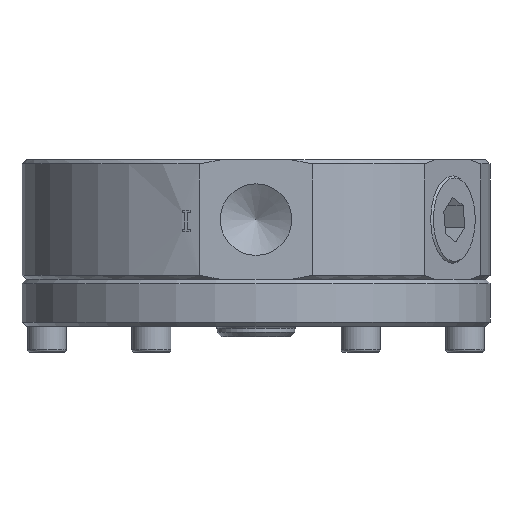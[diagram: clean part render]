
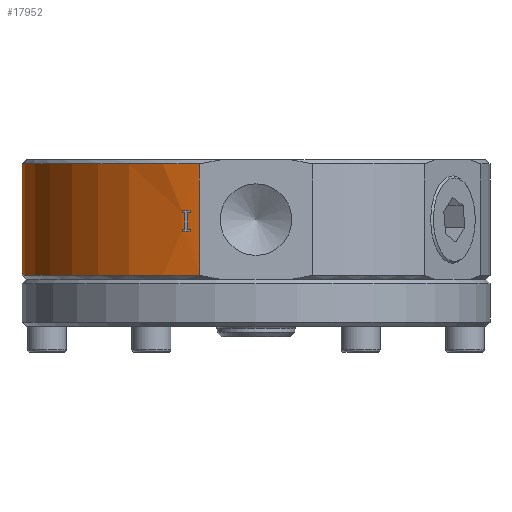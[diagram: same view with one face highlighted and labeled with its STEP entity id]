
A CAD part, left-side view. The second image highlights one B-rep face of the part: STEP entity #17952.
In plain terms, the highlighted cylindrical face has radius 57.15 mm (diameter 114.3 mm), a partial arc.
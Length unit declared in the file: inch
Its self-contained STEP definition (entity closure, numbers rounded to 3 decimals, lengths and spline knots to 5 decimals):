
#160=FACE_BOUND('',#2711,.T.);
#1201=CYLINDRICAL_SURFACE('',#18766,2.25);
#1844=FACE_OUTER_BOUND('',#2710,.T.);
#2710=EDGE_LOOP('',(#14889,#14890,#14891,#14892));
#2711=EDGE_LOOP('',(#14893,#14894,#14895,#14896,#14897,#14898,#14899,#14900,
#14901,#14902,#14903,#14904));
#2992=LINE('',#23027,#5003);
#2995=LINE('',#23035,#5006);
#2998=LINE('',#23043,#5009);
#3001=LINE('',#23051,#5012);
#3004=LINE('',#23059,#5015);
#3007=LINE('',#23067,#5018);
#4394=LINE('',#28120,#6405);
#4399=LINE('',#28194,#6410);
#5003=VECTOR('',#19186,0.3937);
#5006=VECTOR('',#19195,0.3937);
#5009=VECTOR('',#19204,0.3937);
#5012=VECTOR('',#19213,0.3937);
#5015=VECTOR('',#19222,0.3937);
#5018=VECTOR('',#19231,0.3937);
#6405=VECTOR('',#21650,0.3937);
#6410=VECTOR('',#21691,0.3937);
#7016=CIRCLE('',#18219,2.25);
#7017=CIRCLE('',#18222,2.25);
#7018=CIRCLE('',#18225,2.25);
#7019=CIRCLE('',#18228,2.25);
#7020=CIRCLE('',#18231,2.25);
#7021=CIRCLE('',#18234,2.25);
#7055=CIRCLE('',#18746,2.25);
#7060=CIRCLE('',#18765,2.25);
#7220=VERTEX_POINT('',#23024);
#7221=VERTEX_POINT('',#23026);
#7222=VERTEX_POINT('',#23030);
#7223=VERTEX_POINT('',#23034);
#7224=VERTEX_POINT('',#23038);
#7225=VERTEX_POINT('',#23042);
#7226=VERTEX_POINT('',#23046);
#7227=VERTEX_POINT('',#23050);
#7228=VERTEX_POINT('',#23054);
#7229=VERTEX_POINT('',#23058);
#7230=VERTEX_POINT('',#23062);
#7231=VERTEX_POINT('',#23066);
#8314=VERTEX_POINT('',#28108);
#8315=VERTEX_POINT('',#28112);
#8316=VERTEX_POINT('',#28119);
#8325=VERTEX_POINT('',#28188);
#9060=EDGE_CURVE('',#7221,#7220,#2992,.T.);
#9062=EDGE_CURVE('',#7222,#7221,#7016,.T.);
#9064=EDGE_CURVE('',#7223,#7222,#2995,.T.);
#9066=EDGE_CURVE('',#7224,#7223,#7017,.T.);
#9068=EDGE_CURVE('',#7225,#7224,#2998,.T.);
#9070=EDGE_CURVE('',#7226,#7225,#7018,.T.);
#9072=EDGE_CURVE('',#7227,#7226,#3001,.T.);
#9074=EDGE_CURVE('',#7228,#7227,#7019,.T.);
#9076=EDGE_CURVE('',#7229,#7228,#3004,.T.);
#9078=EDGE_CURVE('',#7230,#7229,#7020,.T.);
#9080=EDGE_CURVE('',#7231,#7230,#3007,.T.);
#9082=EDGE_CURVE('',#7220,#7231,#7021,.T.);
#10692=EDGE_CURVE('',#8314,#8315,#7055,.T.);
#10694=EDGE_CURVE('',#8316,#8315,#4394,.T.);
#10716=EDGE_CURVE('',#8316,#8325,#7060,.T.);
#10718=EDGE_CURVE('',#8314,#8325,#4399,.T.);
#14889=ORIENTED_EDGE('',*,*,#10692,.F.);
#14890=ORIENTED_EDGE('',*,*,#10718,.T.);
#14891=ORIENTED_EDGE('',*,*,#10716,.F.);
#14892=ORIENTED_EDGE('',*,*,#10694,.T.);
#14893=ORIENTED_EDGE('',*,*,#9060,.T.);
#14894=ORIENTED_EDGE('',*,*,#9082,.T.);
#14895=ORIENTED_EDGE('',*,*,#9080,.T.);
#14896=ORIENTED_EDGE('',*,*,#9078,.T.);
#14897=ORIENTED_EDGE('',*,*,#9076,.T.);
#14898=ORIENTED_EDGE('',*,*,#9074,.T.);
#14899=ORIENTED_EDGE('',*,*,#9072,.T.);
#14900=ORIENTED_EDGE('',*,*,#9070,.T.);
#14901=ORIENTED_EDGE('',*,*,#9068,.T.);
#14902=ORIENTED_EDGE('',*,*,#9066,.T.);
#14903=ORIENTED_EDGE('',*,*,#9064,.T.);
#14904=ORIENTED_EDGE('',*,*,#9062,.T.);
#17952=ADVANCED_FACE('',(#1844,#160),#1201,.T.);
#18219=AXIS2_PLACEMENT_3D('',#23031,#19190,#19191);
#18222=AXIS2_PLACEMENT_3D('',#23039,#19199,#19200);
#18225=AXIS2_PLACEMENT_3D('',#23047,#19208,#19209);
#18228=AXIS2_PLACEMENT_3D('',#23055,#19217,#19218);
#18231=AXIS2_PLACEMENT_3D('',#23063,#19226,#19227);
#18234=AXIS2_PLACEMENT_3D('',#23070,#19235,#19236);
#18746=AXIS2_PLACEMENT_3D('',#28113,#21644,#21645);
#18765=AXIS2_PLACEMENT_3D('',#28189,#21687,#21688);
#18766=AXIS2_PLACEMENT_3D('',#28193,#21689,#21690);
#19186=DIRECTION('',(0.,0.,1.));
#19190=DIRECTION('center_axis',(0.,0.,
-1.));
#19191=DIRECTION('ref_axis',(-1.,0.,0.));
#19195=DIRECTION('',(0.,0.,1.));
#19199=DIRECTION('center_axis',(0.,0.,
1.));
#19200=DIRECTION('ref_axis',(-1.,0.,0.));
#19204=DIRECTION('',(0.,0.,1.));
#19208=DIRECTION('center_axis',(0.,0.,
-1.));
#19209=DIRECTION('ref_axis',(-1.,0.,0.));
#19213=DIRECTION('',(0.,0.,-1.));
#19217=DIRECTION('center_axis',(0.,0.,
1.));
#19218=DIRECTION('ref_axis',(-1.,0.,0.));
#19222=DIRECTION('',(0.,0.,-1.));
#19226=DIRECTION('center_axis',(0.,0.,
-1.));
#19227=DIRECTION('ref_axis',(-1.,0.,0.));
#19231=DIRECTION('',(0.,0.,-1.));
#19235=DIRECTION('center_axis',(0.,0.,
1.));
#19236=DIRECTION('ref_axis',(-1.,0.,0.));
#21644=DIRECTION('center_axis',(0.,0.,
1.));
#21645=DIRECTION('ref_axis',(-1.,0.,0.));
#21650=DIRECTION('',(0.,0.,1.));
#21687=DIRECTION('center_axis',(0.,0.,
-1.));
#21688=DIRECTION('ref_axis',(-1.,0.,0.));
#21689=DIRECTION('center_axis',(0.,0.,
-1.));
#21690=DIRECTION('ref_axis',(-1.,0.,0.));
#21691=DIRECTION('',(0.,0.,-1.));
#23024=CARTESIAN_POINT('',(-2.13568,0.70806,1.13247));
#23026=CARTESIAN_POINT('',(-2.13568,0.70806,1.11204));
#23027=CARTESIAN_POINT('',(-2.13568,0.70806,1.04566));
#23030=CARTESIAN_POINT('',(-2.14355,0.68387,1.11204));
#23031=CARTESIAN_POINT('Origin',(0.,0.,
1.11204));
#23034=CARTESIAN_POINT('',(-2.14355,0.68387,0.95289));
#23035=CARTESIAN_POINT('',(-2.14355,0.68387,1.04566));
#23038=CARTESIAN_POINT('',(-2.13568,0.70806,0.95289));
#23039=CARTESIAN_POINT('Origin',(0.,0.,
0.95289));
#23042=CARTESIAN_POINT('',(-2.13568,0.70806,0.93247));
#23043=CARTESIAN_POINT('',(-2.13568,0.70806,1.04566));
#23046=CARTESIAN_POINT('',(-2.15879,0.63412,0.93247));
#23047=CARTESIAN_POINT('Origin',(0.,0.,
0.93247));
#23050=CARTESIAN_POINT('',(-2.15879,0.63412,0.95289));
#23051=CARTESIAN_POINT('',(-2.15879,0.63412,1.04566));
#23054=CARTESIAN_POINT('',(-2.15148,0.6585,0.95289));
#23055=CARTESIAN_POINT('Origin',(0.,0.,
0.95289));
#23058=CARTESIAN_POINT('',(-2.15148,0.6585,1.11204));
#23059=CARTESIAN_POINT('',(-2.15148,0.6585,1.04566));
#23062=CARTESIAN_POINT('',(-2.15879,0.63412,1.11204));
#23063=CARTESIAN_POINT('Origin',(0.,0.,
1.11204));
#23066=CARTESIAN_POINT('',(-2.15879,0.63412,1.13247));
#23067=CARTESIAN_POINT('',(-2.15879,0.63412,1.04566));
#23070=CARTESIAN_POINT('Origin',(0.,0.,
1.13247));
#28108=CARTESIAN_POINT('',(2.18326,0.54395,1.58066));
#28112=CARTESIAN_POINT('',(-2.18326,0.54395,1.58066));
#28113=CARTESIAN_POINT('Origin',(0.,0.,
1.58066));
#28119=CARTESIAN_POINT('',(-2.18326,0.54395,0.51066));
#28120=CARTESIAN_POINT('',(-2.18326,0.54395,1.04566));
#28188=CARTESIAN_POINT('',(2.18326,0.54395,0.51066));
#28189=CARTESIAN_POINT('Origin',(0.,0.,
0.51066));
#28193=CARTESIAN_POINT('Origin',(0.,0.,
1.04566));
#28194=CARTESIAN_POINT('',(2.18326,0.54395,1.04566));
